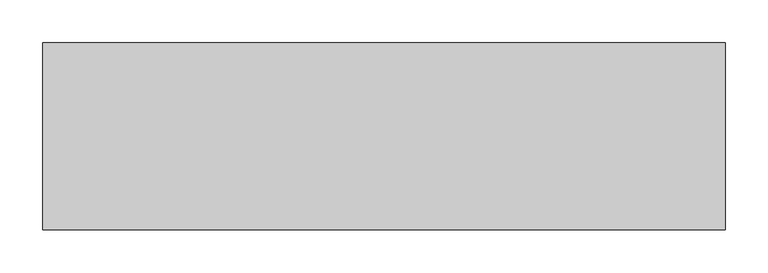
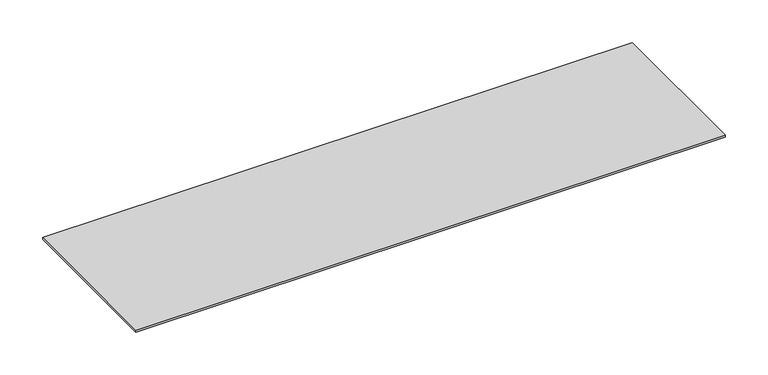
"""IFC4 building model written with IfcOpenShell, lengths in millimetres: proxy geometry, Electrical_Installation_Hager_Blank-Cover-BKA : Electrical_Installation_Hager_Blank-Cover-BKA."""

from ifc_helpers import new_model, si_unit, frame, origin, place, context, project, spatial, polyline, outline, extrude, source, transform, mapped, element, save


def electrical_fixtures_5cdb9d4a(model_context):
    return source(origin(), model_context, "Body", "SweptSolid", [
        extrude(outline(polyline([(800.0, 109.75), (800.0, -109.75), (0.0, -109.75), (0.0, 109.75), (800.0, 109.75)])), frame((0.0, 0.0, 10.0), z_axis=(0.0, 0.0, 1.0), x_axis=(1.0, 0.0, 0.0)), (0.0, 0.0, 1.0), 3.0),
    ])


if __name__ == "__main__":
    model = new_model("IFC4")
    model_context = context("Model", 3, world=origin())
    ifc_project = project(units=[si_unit("LENGTHUNIT", "METRE", prefix="MILLI")], contexts=[model_context])
    site = spatial("IfcSite", under=ifc_project)
    building = spatial("IfcBuilding", under=site)
    placement = place(None, origin())
    electrical_fixtures_shape = electrical_fixtures_5cdb9d4a(model_context)
    element("IfcBuildingElementProxy", 1, Name="Electrical_Installation_Hager_Blank-Cover-BKA : Electrical_Installation_Hager_Blank-Cover-BKA", ObjectType="Electrical_Installation_Hager_Blank-Cover-BKA : Electrical_Installation_Hager_Blank-Cover-BKA", at=placement, inside=building, context=model_context, shape_type="MappedRepresentation", body=[
        mapped(electrical_fixtures_shape, transform((0.0, 0.0, 0.0), x_axis=(1.0, 0.0, 0.0), y_axis=(0.0, 1.0, 0.0), z_axis=(0.0, 0.0, 1.0))),
    ])
    save(model, "model.ifc")
